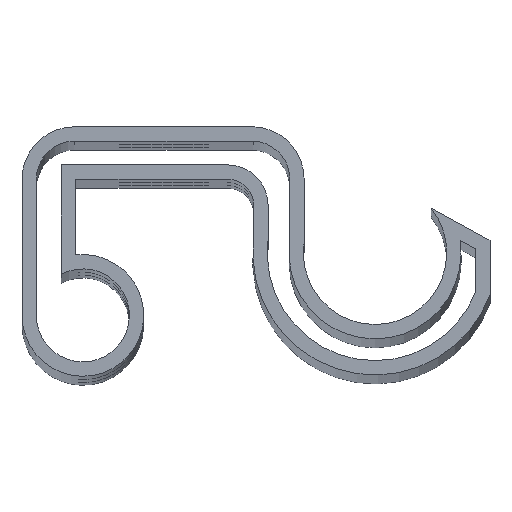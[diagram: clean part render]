
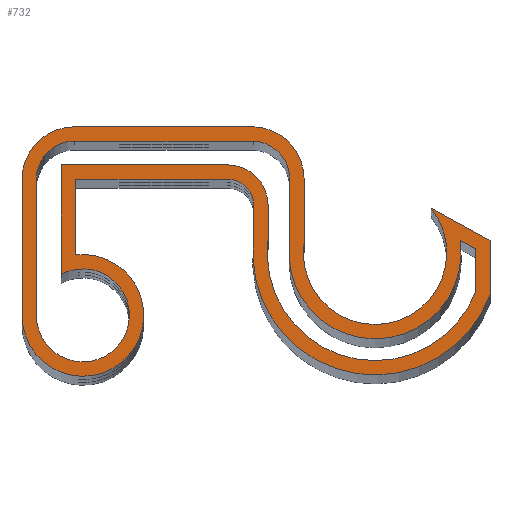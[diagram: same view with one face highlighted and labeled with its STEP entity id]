
A CAD part, top view. The second image highlights one B-rep face of the part: STEP entity #732.
In plain terms, the highlighted planar face has unit normal (0, 0, 1).
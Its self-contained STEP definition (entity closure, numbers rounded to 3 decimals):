
#16=LINE('',#1310,#78);
#21=LINE('',#1340,#83);
#27=LINE('',#1357,#89);
#31=LINE('',#1369,#93);
#34=LINE('',#1375,#96);
#38=LINE('',#1387,#100);
#44=LINE('',#1408,#106);
#47=LINE('',#1420,#109);
#48=LINE('',#1422,#110);
#49=LINE('',#1426,#111);
#50=LINE('',#1430,#112);
#51=LINE('',#1434,#113);
#52=LINE('',#1437,#114);
#53=LINE('',#1440,#115);
#54=LINE('',#1441,#116);
#55=LINE('',#1442,#117);
#78=VECTOR('',#840,8.466);
#83=VECTOR('',#871,6.094);
#89=VECTOR('',#885,1.839);
#93=VECTOR('',#897,2.382);
#96=VECTOR('',#902,0.984);
#100=VECTOR('',#914,3.441);
#106=VECTOR('',#934,7.597);
#109=VECTOR('',#947,3.);
#110=VECTOR('',#948,3.737);
#111=VECTOR('',#951,3.499);
#112=VECTOR('',#954,10.002);
#113=VECTOR('',#957,7.597);
#114=VECTOR('',#960,4.225);
#115=VECTOR('',#963,1.787);
#116=VECTOR('',#964,9.985);
#117=VECTOR('',#965,9.266);
#146=PLANE('',#794);
#167=CIRCLE('',#772,2.264);
#169=CIRCLE('',#776,6.016);
#171=CIRCLE('',#781,4.8);
#173=CIRCLE('',#785,2.128);
#175=CIRCLE('',#788,2.128);
#177=CIRCLE('',#792,2.595);
#179=CIRCLE('',#795,6.816);
#180=CIRCLE('',#796,4.);
#181=CIRCLE('',#797,2.928);
#182=CIRCLE('',#798,2.928);
#183=CIRCLE('',#799,3.395);
#184=CIRCLE('',#800,1.464);
#201=FACE_BOUND('',#281,.T.);
#232=FACE_OUTER_BOUND('',#280,.T.);
#280=EDGE_LOOP('',(#563,#564,#565,#566,#567,#568,#569,#570,#571,#572,#573,
#574,#575,#576));
#281=EDGE_LOOP('',(#577,#578,#579,#580,#581,#582,#583,#584,#585,#586,#587,
#588,#589,#590));
#321=VERTEX_POINT('',#1307);
#322=VERTEX_POINT('',#1309);
#333=VERTEX_POINT('',#1338);
#334=VERTEX_POINT('',#1339);
#337=VERTEX_POINT('',#1347);
#338=VERTEX_POINT('',#1348);
#341=VERTEX_POINT('',#1356);
#343=VERTEX_POINT('',#1362);
#345=VERTEX_POINT('',#1368);
#347=VERTEX_POINT('',#1374);
#349=VERTEX_POINT('',#1380);
#351=VERTEX_POINT('',#1386);
#353=VERTEX_POINT('',#1392);
#355=VERTEX_POINT('',#1398);
#356=VERTEX_POINT('',#1399);
#359=VERTEX_POINT('',#1407);
#361=VERTEX_POINT('',#1416);
#362=VERTEX_POINT('',#1417);
#363=VERTEX_POINT('',#1419);
#364=VERTEX_POINT('',#1421);
#365=VERTEX_POINT('',#1423);
#366=VERTEX_POINT('',#1425);
#367=VERTEX_POINT('',#1427);
#368=VERTEX_POINT('',#1429);
#369=VERTEX_POINT('',#1431);
#370=VERTEX_POINT('',#1433);
#371=VERTEX_POINT('',#1435);
#372=VERTEX_POINT('',#1438);
#394=EDGE_CURVE('',#322,#321,#16,.T.);
#407=EDGE_CURVE('',#333,#334,#21,.T.);
#411=EDGE_CURVE('',#337,#338,#167,.T.);
#415=EDGE_CURVE('',#341,#337,#27,.T.);
#418=EDGE_CURVE('',#343,#341,#169,.T.);
#421=EDGE_CURVE('',#345,#343,#31,.T.);
#424=EDGE_CURVE('',#347,#345,#34,.T.);
#427=EDGE_CURVE('',#349,#347,#171,.T.);
#430=EDGE_CURVE('',#351,#349,#38,.T.);
#433=EDGE_CURVE('',#353,#351,#173,.T.);
#436=EDGE_CURVE('',#355,#356,#175,.T.);
#440=EDGE_CURVE('',#359,#355,#44,.T.);
#443=EDGE_CURVE('',#334,#359,#177,.T.);
#445=EDGE_CURVE('',#361,#362,#179,.T.);
#446=EDGE_CURVE('',#362,#363,#47,.T.);
#447=EDGE_CURVE('',#363,#364,#48,.T.);
#448=EDGE_CURVE('',#364,#365,#180,.T.);
#449=EDGE_CURVE('',#365,#366,#49,.T.);
#450=EDGE_CURVE('',#366,#367,#181,.T.);
#451=EDGE_CURVE('',#367,#368,#50,.T.);
#452=EDGE_CURVE('',#368,#369,#182,.T.);
#453=EDGE_CURVE('',#369,#370,#51,.T.);
#454=EDGE_CURVE('',#370,#371,#183,.T.);
#455=EDGE_CURVE('',#371,#322,#52,.T.);
#456=EDGE_CURVE('',#321,#372,#184,.T.);
#457=EDGE_CURVE('',#372,#361,#53,.T.);
#458=EDGE_CURVE('',#356,#353,#54,.T.);
#459=EDGE_CURVE('',#338,#333,#55,.T.);
#563=ORIENTED_EDGE('',*,*,#445,.T.);
#564=ORIENTED_EDGE('',*,*,#446,.T.);
#565=ORIENTED_EDGE('',*,*,#447,.T.);
#566=ORIENTED_EDGE('',*,*,#448,.T.);
#567=ORIENTED_EDGE('',*,*,#449,.T.);
#568=ORIENTED_EDGE('',*,*,#450,.T.);
#569=ORIENTED_EDGE('',*,*,#451,.T.);
#570=ORIENTED_EDGE('',*,*,#452,.T.);
#571=ORIENTED_EDGE('',*,*,#453,.T.);
#572=ORIENTED_EDGE('',*,*,#454,.T.);
#573=ORIENTED_EDGE('',*,*,#455,.T.);
#574=ORIENTED_EDGE('',*,*,#394,.T.);
#575=ORIENTED_EDGE('',*,*,#456,.T.);
#576=ORIENTED_EDGE('',*,*,#457,.T.);
#577=ORIENTED_EDGE('',*,*,#407,.T.);
#578=ORIENTED_EDGE('',*,*,#443,.T.);
#579=ORIENTED_EDGE('',*,*,#440,.T.);
#580=ORIENTED_EDGE('',*,*,#436,.T.);
#581=ORIENTED_EDGE('',*,*,#458,.T.);
#582=ORIENTED_EDGE('',*,*,#433,.T.);
#583=ORIENTED_EDGE('',*,*,#430,.T.);
#584=ORIENTED_EDGE('',*,*,#427,.T.);
#585=ORIENTED_EDGE('',*,*,#424,.T.);
#586=ORIENTED_EDGE('',*,*,#421,.T.);
#587=ORIENTED_EDGE('',*,*,#418,.T.);
#588=ORIENTED_EDGE('',*,*,#415,.T.);
#589=ORIENTED_EDGE('',*,*,#411,.T.);
#590=ORIENTED_EDGE('',*,*,#459,.T.);
#732=ADVANCED_FACE('',(#232,#201),#146,.T.);
#772=AXIS2_PLACEMENT_3D('',#1349,#877,#878);
#776=AXIS2_PLACEMENT_3D('',#1363,#890,#891);
#781=AXIS2_PLACEMENT_3D('',#1381,#907,#908);
#785=AXIS2_PLACEMENT_3D('',#1393,#919,#920);
#788=AXIS2_PLACEMENT_3D('',#1400,#926,#927);
#792=AXIS2_PLACEMENT_3D('',#1413,#939,#940);
#794=AXIS2_PLACEMENT_3D('',#1415,#943,#944);
#795=AXIS2_PLACEMENT_3D('',#1418,#945,#946);
#796=AXIS2_PLACEMENT_3D('',#1424,#949,#950);
#797=AXIS2_PLACEMENT_3D('',#1428,#952,#953);
#798=AXIS2_PLACEMENT_3D('',#1432,#955,#956);
#799=AXIS2_PLACEMENT_3D('',#1436,#958,#959);
#800=AXIS2_PLACEMENT_3D('',#1439,#961,#962);
#840=DIRECTION('',(1.,0.,0.));
#871=DIRECTION('',(0.,-1.,0.));
#877=DIRECTION('center_axis',(0.,0.,1.));
#878=DIRECTION('ref_axis',(-1.,0.,0.));
#885=DIRECTION('',(0.,1.,0.));
#890=DIRECTION('center_axis',(0.,0.,-1.));
#891=DIRECTION('ref_axis',(-0.991,0.133,0.));
#897=DIRECTION('',(0.,-1.,0.));
#902=DIRECTION('',(0.877,-0.48,0.));
#907=DIRECTION('center_axis',(0.,0.,1.));
#908=DIRECTION('ref_axis',(0.99,-0.139,0.));
#914=DIRECTION('',(0.,-1.,0.));
#919=DIRECTION('center_axis',(0.,0.,-1.));
#920=DIRECTION('ref_axis',(1.,0.,0.));
#926=DIRECTION('center_axis',(0.,0.,-1.));
#927=DIRECTION('ref_axis',(0.,1.,0.));
#934=DIRECTION('',(0.,1.,0.));
#939=DIRECTION('center_axis',(0.,0.,-1.));
#940=DIRECTION('ref_axis',(-1.,0.,0.));
#943=DIRECTION('center_axis',(0.,0.,1.));
#944=DIRECTION('ref_axis',(1.,0.,0.));
#945=DIRECTION('center_axis',(0.,0.,1.));
#946=DIRECTION('ref_axis',(-0.992,0.125,0.));
#947=DIRECTION('',(0.,1.,0.));
#948=DIRECTION('',(-0.877,0.48,0.));
#949=DIRECTION('center_axis',(0.,0.,-1.));
#950=DIRECTION('ref_axis',(0.988,-0.152,0.));
#951=DIRECTION('',(0.,1.,0.));
#952=DIRECTION('center_axis',(0.,0.,1.));
#953=DIRECTION('ref_axis',(1.,0.,0.));
#954=DIRECTION('',(-1.,0.,0.));
#955=DIRECTION('center_axis',(0.,0.,1.));
#956=DIRECTION('ref_axis',(0.,1.,0.));
#957=DIRECTION('',(0.,-1.,0.));
#958=DIRECTION('center_axis',(0.,0.,1.));
#959=DIRECTION('ref_axis',(-1.,0.,0.));
#960=DIRECTION('',(0.,1.,0.));
#961=DIRECTION('center_axis',(0.,0.,-1.));
#962=DIRECTION('ref_axis',(-1.,0.,0.));
#963=DIRECTION('',(0.,-1.,0.));
#964=DIRECTION('',(1.,0.,0.));
#965=DIRECTION('',(-1.,0.,0.));
#1307=CARTESIAN_POINT('',(11.706,-0.701,287.));
#1309=CARTESIAN_POINT('',(3.24,-0.701,287.));
#1310=CARTESIAN_POINT('',(3.24,-0.701,287.));
#1338=CARTESIAN_POINT('',(2.44,0.099,287.));
#1339=CARTESIAN_POINT('',(2.44,-5.995,287.));
#1340=CARTESIAN_POINT('',(2.44,-2.141,287.));
#1347=CARTESIAN_POINT('',(13.97,-2.165,287.));
#1348=CARTESIAN_POINT('',(11.706,0.099,287.));
#1349=CARTESIAN_POINT('Origin',(11.706,-2.165,287.));
#1356=CARTESIAN_POINT('',(13.97,-4.004,287.));
#1357=CARTESIAN_POINT('',(13.97,-4.192,287.));
#1362=CARTESIAN_POINT('',(25.546,-6.969,287.));
#1363=CARTESIAN_POINT('Origin',(19.933,-4.805,287.));
#1368=CARTESIAN_POINT('',(25.546,-4.588,287.));
#1369=CARTESIAN_POINT('',(25.546,-4.484,287.));
#1374=CARTESIAN_POINT('',(24.683,-4.116,287.));
#1375=CARTESIAN_POINT('',(19.797,-1.443,287.));
#1380=CARTESIAN_POINT('',(15.179,-4.139,287.));
#1381=CARTESIAN_POINT('Origin',(19.933,-4.805,287.));
#1386=CARTESIAN_POINT('',(15.179,-0.698,287.));
#1387=CARTESIAN_POINT('',(15.179,-2.539,287.));
#1392=CARTESIAN_POINT('',(13.153,1.427,287.));
#1393=CARTESIAN_POINT('Origin',(13.051,-0.698,287.));
#1398=CARTESIAN_POINT('',(1.04,-0.701,287.));
#1399=CARTESIAN_POINT('',(3.168,1.427,287.));
#1400=CARTESIAN_POINT('Origin',(3.168,-0.701,287.));
#1407=CARTESIAN_POINT('',(1.04,-8.298,287.));
#1408=CARTESIAN_POINT('',(1.04,-6.339,287.));
#1413=CARTESIAN_POINT('Origin',(3.635,-8.298,287.));
#1415=CARTESIAN_POINT('Origin',(11.842,-4.38,287.));
#1416=CARTESIAN_POINT('',(13.17,-3.952,287.));
#1417=CARTESIAN_POINT('',(26.346,-7.113,287.));
#1418=CARTESIAN_POINT('Origin',(19.933,-4.805,287.));
#1419=CARTESIAN_POINT('',(26.346,-4.113,287.));
#1420=CARTESIAN_POINT('',(26.346,-7.113,287.));
#1421=CARTESIAN_POINT('',(23.067,-2.32,287.));
#1422=CARTESIAN_POINT('',(26.346,-4.113,287.));
#1423=CARTESIAN_POINT('',(15.979,-4.198,287.));
#1424=CARTESIAN_POINT('Origin',(19.933,-4.805,287.));
#1425=CARTESIAN_POINT('',(15.979,-0.698,287.));
#1426=CARTESIAN_POINT('',(15.979,-4.198,287.));
#1427=CARTESIAN_POINT('',(13.17,2.227,287.));
#1428=CARTESIAN_POINT('Origin',(13.051,-0.698,287.));
#1429=CARTESIAN_POINT('',(3.168,2.227,287.));
#1430=CARTESIAN_POINT('',(13.17,2.227,287.));
#1431=CARTESIAN_POINT('',(0.24,-0.701,287.));
#1432=CARTESIAN_POINT('Origin',(3.168,-0.701,287.));
#1433=CARTESIAN_POINT('',(0.24,-8.298,287.));
#1434=CARTESIAN_POINT('',(0.24,-0.701,287.));
#1435=CARTESIAN_POINT('',(3.24,-4.926,287.));
#1436=CARTESIAN_POINT('Origin',(3.635,-8.298,287.));
#1437=CARTESIAN_POINT('',(3.24,-4.926,287.));
#1438=CARTESIAN_POINT('',(13.17,-2.165,287.));
#1439=CARTESIAN_POINT('Origin',(11.706,-2.165,287.));
#1440=CARTESIAN_POINT('',(13.17,-2.165,287.));
#1441=CARTESIAN_POINT('',(7.505,1.427,287.));
#1442=CARTESIAN_POINT('',(11.774,0.099,287.));
